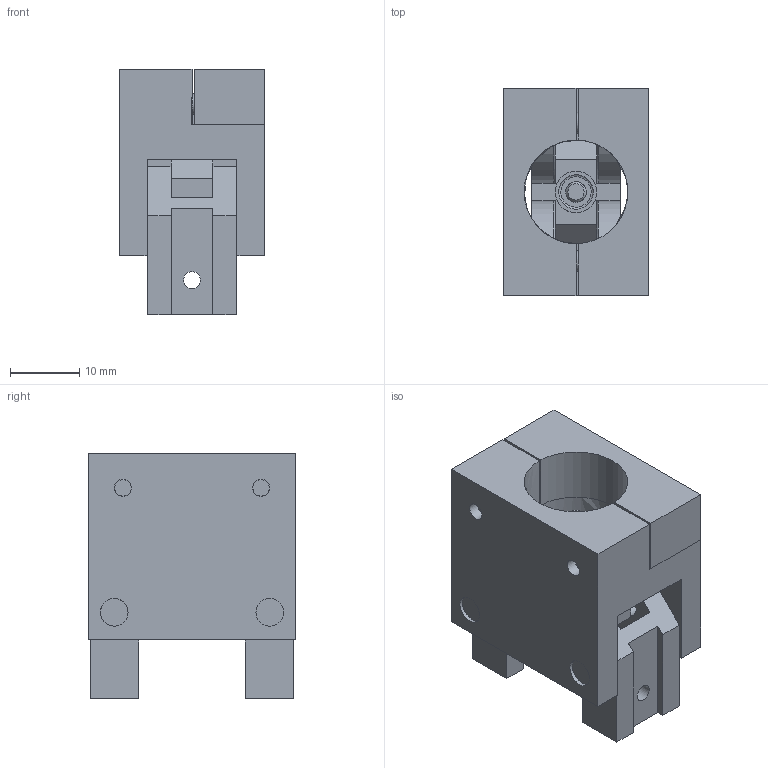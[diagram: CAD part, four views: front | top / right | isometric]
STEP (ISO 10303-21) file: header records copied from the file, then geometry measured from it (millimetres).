
FILE_DESCRIPTION((''),'2;1');
FILE_NAME('C:\Test\stp\3000006-1.stp','2006-04-11T13:01:00',('is'),(''),'Autodesk Inventor 10','Autodesk Inventor 10','');
FILE_SCHEMA(('AUTOMOTIVE_DESIGN { 1 0 10303 214 1 1 1 1 }'));
Length unit declared in the file: millimetre
Products named in the file (1): 3000006-1
Bounding box: 21 x 30 x 35.5 mm (x, y, z)
Volume: 13184.9 mm3; surface area: 8918.2 mm2
Topology: 1 solids, 1 shells, 241 faces, 652 edges, 414 vertices
Faces by surface type: plane 159, cylinder 43, bspline 23, cone 15, torus 1
Full cylindrical faces by diameter (mm): 2.95 x1, 3 x6, 5.5 x2, 5.7 x1, 6 x2, 7 x4
Entity records: 7687 total; most frequent: CARTESIAN_POINT 1722, DIRECTION 1219, ORIENTED_EDGE 1214, EDGE_CURVE 607, AXIS2_PLACEMENT_3D 413, VERTEX_POINT 399, VECTOR 393, LINE 393
